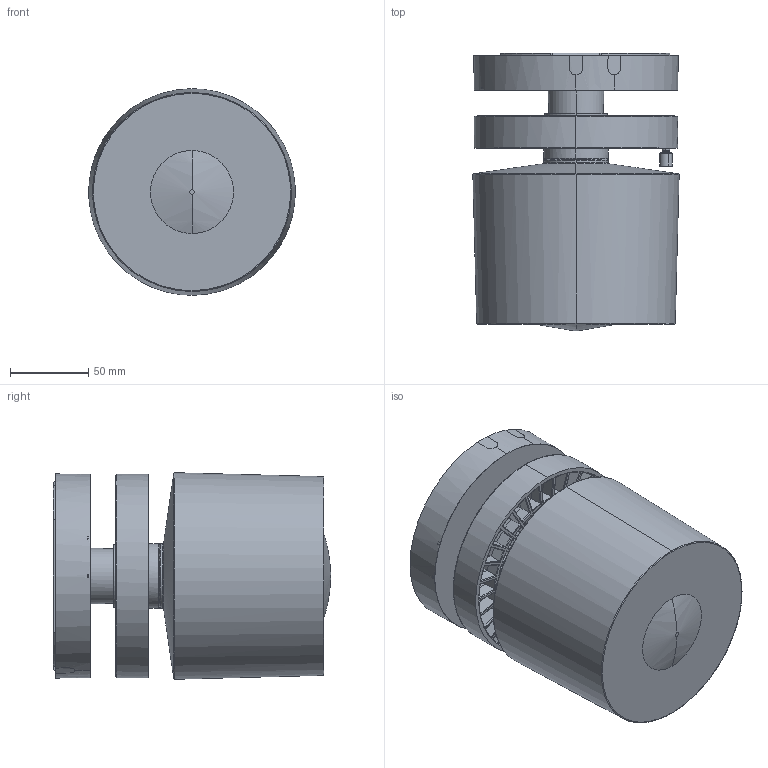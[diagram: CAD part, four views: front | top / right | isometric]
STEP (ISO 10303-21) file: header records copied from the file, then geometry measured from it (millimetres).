
FILE_DESCRIPTION(/* description */ (''),/* implementation_level */ '2;1');
FILE_NAME(/* name */ 'M0677A81 - CATA CEILING FIX - OPTIC 10°',/* time_stamp */ '2018-03-01T12:12:49+01:00',/* author */ (''),/* organization */ (''),/* preprocessor_version */ 'ST-DEVELOPER v15',/* originating_system */ '',/* authorisation */ '');
FILE_SCHEMA (('CONFIG_CONTROL_DESIGN'));
Length unit declared in the file: millimetre
Products named in the file (1): Document
Bounding box: 131.83 x 177.21 x 132 mm (x, y, z)
Volume: 191989.2 mm3; surface area: 299849.3 mm2
Topology: 11 solids, 41 shells, 1355 faces, 3334 edges, 1989 vertices
Faces by surface type: bspline 985, plane 370
Entity records: 68304 total; most frequent: CARTESIAN_POINT 48768, ORIENTED_EDGE 6423, EDGE_CURVE 3321, B_SPLINE_CURVE_WITH_KNOTS 2103, VERTEX_POINT 1989, EDGE_LOOP 1525, ADVANCED_FACE 1355, FACE_OUTER_BOUND 1355
